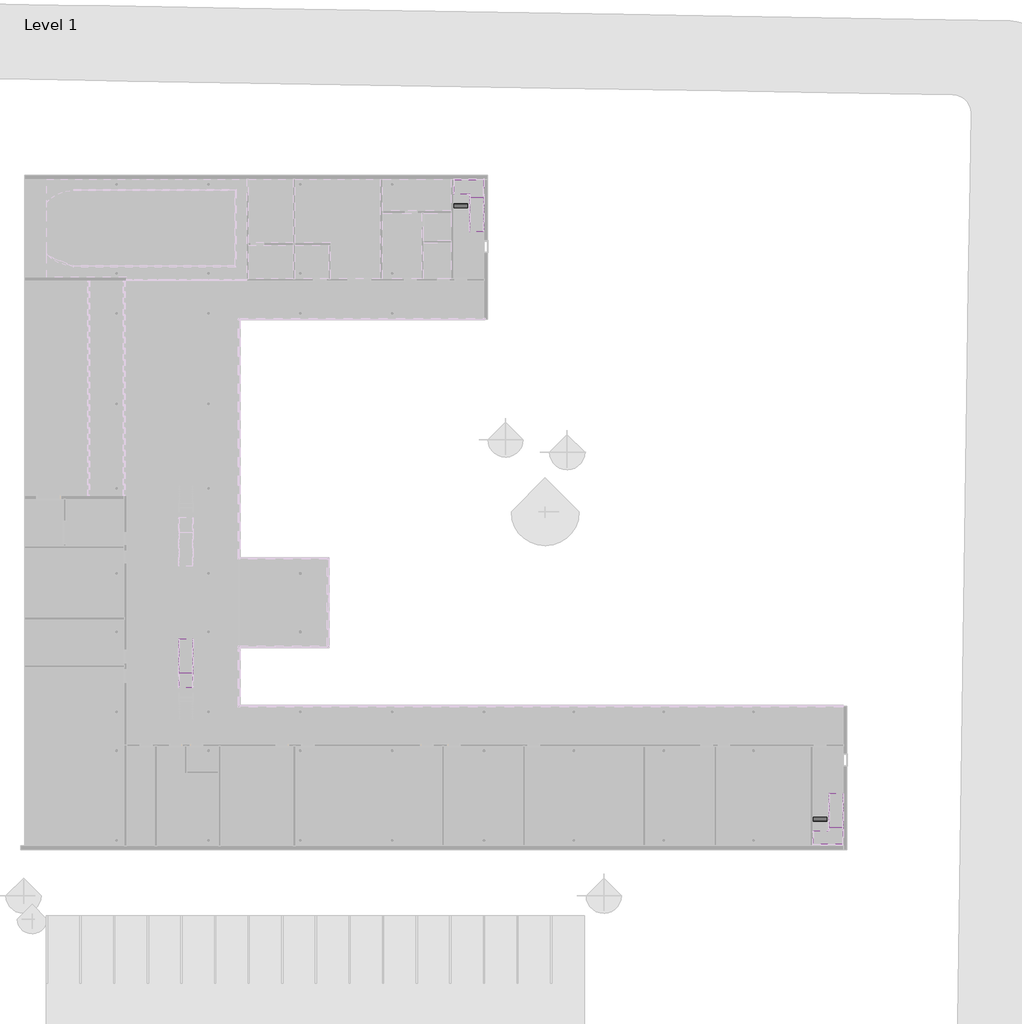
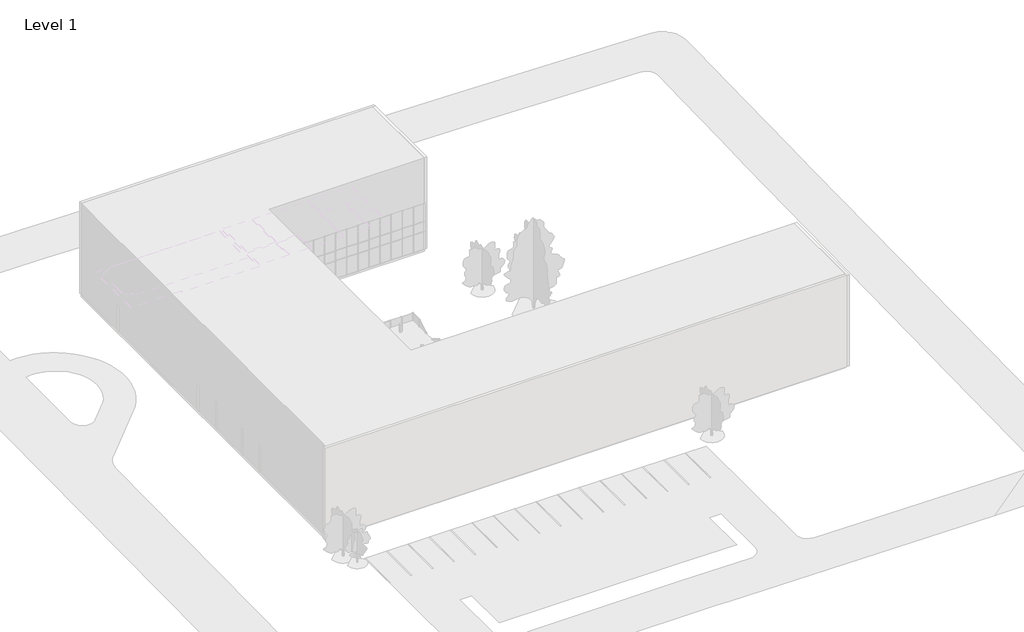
# One storey, part 20 of 23: 5 stair flights, 3 slabs.
"""IFC4 building model written with IfcOpenShell, lengths in millimetres."""

from ifc_helpers import new_model, si_unit, origin, place, context, project, spatial, transform, mapped, element, save
from components import non_monolithic_landing_c4304169, non_monolithic_landing_2b803b3b, non_monolithic_landing_49c053bb, stair_flight_50mm_tread_25mm_nosing_13mm_riser_a435f8cb, stair_flight_50mm_tread_25mm_nosing_13mm_riser_b1afc72b, stair_flight_50mm_tread_25mm_nosing_13mm_riser_2cacd5da, stair_flight_50mm_tread_25mm_nosing_13mm_riser_4ac92de0, stair_flight_50mm_tread_25mm_nosing_13mm_riser_8a1a16b7

model = new_model("IFC4")

# Units and contexts
model_context = context("Model", 3, world=origin())
ifc_project = project(units=[si_unit("LENGTHUNIT", "METRE", prefix="MILLI")], contexts=[model_context])

# Site, building, storey
site = spatial("IfcSite", under=ifc_project)
building = spatial("IfcBuilding", under=site)
storey = spatial("IfcBuildingStorey", under=building, Name="Level 1", Elevation=0.0)

# Slabs
placement = place(None, origin())
non_monolithic_landing_shape = non_monolithic_landing_c4304169(model_context)
element("IfcSlab", 1, ObjectType="Non-Monolithic Landing", at=placement, inside=storey, context=model_context, shape_type="MappedRepresentation", body=[
    mapped(non_monolithic_landing_shape, transform((0.0, 0.0, 0.0), x_axis=(1.0, 0.0, 0.0), y_axis=(0.0, 1.0, 0.0), z_axis=(0.0, 0.0, 1.0))),
])
non_monolithic_landing_2_shape = non_monolithic_landing_2b803b3b(model_context)
element("IfcSlab", 2, ObjectType="Non-Monolithic Landing", at=placement, inside=storey, context=model_context, shape_type="MappedRepresentation", body=[
    mapped(non_monolithic_landing_2_shape, transform((0.0, 0.0, 0.0), x_axis=(1.0, 0.0, 0.0), y_axis=(0.0, 1.0, 0.0), z_axis=(0.0, 0.0, 1.0))),
])
non_monolithic_landing_3_shape = non_monolithic_landing_49c053bb(model_context)
element("IfcSlab", 3, ObjectType="Non-Monolithic Landing", at=placement, inside=storey, context=model_context, shape_type="MappedRepresentation", body=[
    mapped(non_monolithic_landing_3_shape, transform((0.0, 0.0, 0.0), x_axis=(1.0, 0.0, 0.0), y_axis=(0.0, 1.0, 0.0), z_axis=(0.0, 0.0, 1.0))),
])

# Stair flights
stair_flight_50mm_tread_25mm_nosing_13mm_riser_shape = stair_flight_50mm_tread_25mm_nosing_13mm_riser_a435f8cb(model_context)
element("IfcStairFlight", 4, ObjectType="50mm Tread 25mm Nosing 13mm Riser", at=placement, inside=storey, context=model_context, shape_type="MappedRepresentation", body=[
    mapped(stair_flight_50mm_tread_25mm_nosing_13mm_riser_shape, transform((0.0, 0.0, 0.0), x_axis=(1.0, 0.0, 0.0), y_axis=(0.0, 1.0, 0.0), z_axis=(0.0, 0.0, 1.0))),
])
stair_flight_50mm_tread_25mm_nosing_13mm_riser_2_shape = stair_flight_50mm_tread_25mm_nosing_13mm_riser_b1afc72b(model_context)
element("IfcStairFlight", 5, ObjectType="50mm Tread 25mm Nosing 13mm Riser", at=placement, inside=storey, context=model_context, shape_type="MappedRepresentation", body=[
    mapped(stair_flight_50mm_tread_25mm_nosing_13mm_riser_2_shape, transform((0.0, 0.0, 0.0), x_axis=(1.0, 0.0, 0.0), y_axis=(0.0, 1.0, 0.0), z_axis=(0.0, 0.0, 1.0))),
])
stair_flight_50mm_tread_25mm_nosing_13mm_riser_3_shape = stair_flight_50mm_tread_25mm_nosing_13mm_riser_2cacd5da(model_context)
element("IfcStairFlight", 6, ObjectType="50mm Tread 25mm Nosing 13mm Riser", at=placement, inside=storey, context=model_context, shape_type="MappedRepresentation", body=[
    mapped(stair_flight_50mm_tread_25mm_nosing_13mm_riser_3_shape, transform((0.0, 0.0, 0.0), x_axis=(1.0, 0.0, 0.0), y_axis=(0.0, 1.0, 0.0), z_axis=(0.0, 0.0, 1.0))),
])
stair_flight_50mm_tread_25mm_nosing_13mm_riser_4_shape = stair_flight_50mm_tread_25mm_nosing_13mm_riser_4ac92de0(model_context)
element("IfcStairFlight", 7, ObjectType="50mm Tread 25mm Nosing 13mm Riser", at=placement, inside=storey, context=model_context, shape_type="MappedRepresentation", body=[
    mapped(stair_flight_50mm_tread_25mm_nosing_13mm_riser_4_shape, transform((0.0, 0.0, 0.0), x_axis=(1.0, 0.0, 0.0), y_axis=(0.0, 1.0, 0.0), z_axis=(0.0, 0.0, 1.0))),
])
stair_flight_50mm_tread_25mm_nosing_13mm_riser_5_shape = stair_flight_50mm_tread_25mm_nosing_13mm_riser_8a1a16b7(model_context)
element("IfcStairFlight", 8, ObjectType="50mm Tread 25mm Nosing 13mm Riser", at=placement, inside=storey, context=model_context, shape_type="MappedRepresentation", body=[
    mapped(stair_flight_50mm_tread_25mm_nosing_13mm_riser_5_shape, transform((0.0, 0.0, 0.0), x_axis=(1.0, 0.0, 0.0), y_axis=(0.0, 1.0, 0.0), z_axis=(0.0, 0.0, 1.0))),
])

save(model, "model.ifc")
